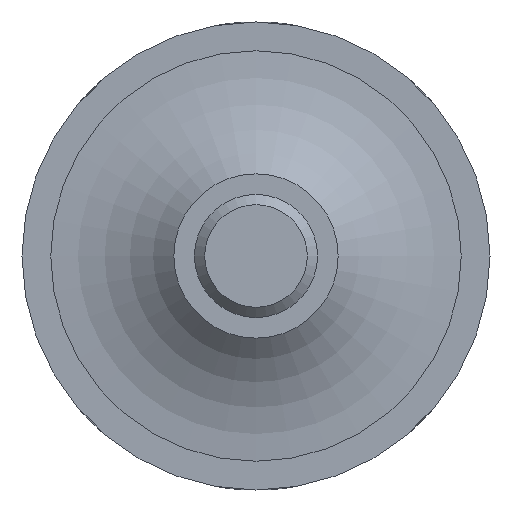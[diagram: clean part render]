
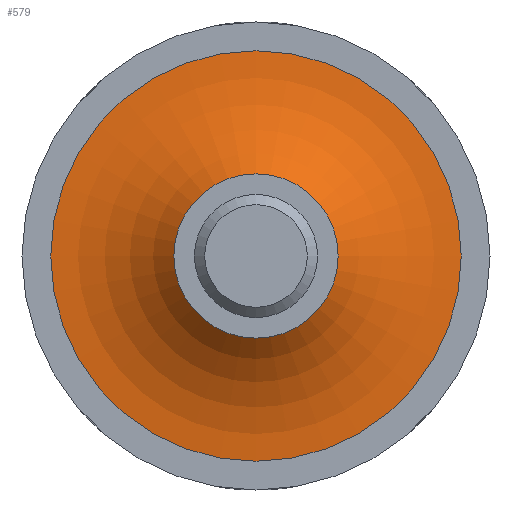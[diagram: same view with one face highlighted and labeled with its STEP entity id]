
A CAD part, front view. The second image highlights one B-rep face of the part: STEP entity #579.
In plain terms, the highlighted toroidal (fillet/blend) face has major radius 20 mm and minor radius 16.9 mm.
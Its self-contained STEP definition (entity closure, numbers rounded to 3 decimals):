
#22=TOROIDAL_SURFACE('',#651,20.,16.9);
#56=CIRCLE('',#650,20.);
#57=CIRCLE('',#652,16.9);
#58=CIRCLE('',#653,8.);
#101=FACE_OUTER_BOUND('',#150,.T.);
#150=EDGE_LOOP('',(#515,#516,#517,#518));
#294=VERTEX_POINT('',#1395);
#295=VERTEX_POINT('',#1398);
#369=EDGE_CURVE('',#294,#294,#56,.T.);
#370=EDGE_CURVE('',#294,#295,#57,.T.);
#371=EDGE_CURVE('',#295,#295,#58,.T.);
#515=ORIENTED_EDGE('',*,*,#369,.T.);
#516=ORIENTED_EDGE('',*,*,#370,.T.);
#517=ORIENTED_EDGE('',*,*,#371,.F.);
#518=ORIENTED_EDGE('',*,*,#370,.F.);
#579=ADVANCED_FACE('',(#101),#22,.F.);
#650=AXIS2_PLACEMENT_3D('',#1396,#772,#773);
#651=AXIS2_PLACEMENT_3D('',#1397,#774,#775);
#652=AXIS2_PLACEMENT_3D('',#1399,#776,#777);
#653=AXIS2_PLACEMENT_3D('',#1400,#778,#779);
#772=DIRECTION('center_axis',(0.,-1.,0.));
#773=DIRECTION('ref_axis',(1.,0.,0.));
#774=DIRECTION('center_axis',(0.,-1.,0.));
#775=DIRECTION('ref_axis',(0.,0.,-1.));
#776=DIRECTION('center_axis',(-1.,0.,0.));
#777=DIRECTION('ref_axis',(0.,0.,1.));
#778=DIRECTION('center_axis',(0.,-1.,0.));
#779=DIRECTION('ref_axis',(1.,0.,0.));
#1395=CARTESIAN_POINT('',(0.,5.,20.));
#1396=CARTESIAN_POINT('Origin',(0.,5.,0.));
#1397=CARTESIAN_POINT('Origin',(0.,-11.9,0.));
#1398=CARTESIAN_POINT('',(0.,0.,8.));
#1399=CARTESIAN_POINT('Origin',(0.,-11.9,20.));
#1400=CARTESIAN_POINT('Origin',(0.,0.,0.));
